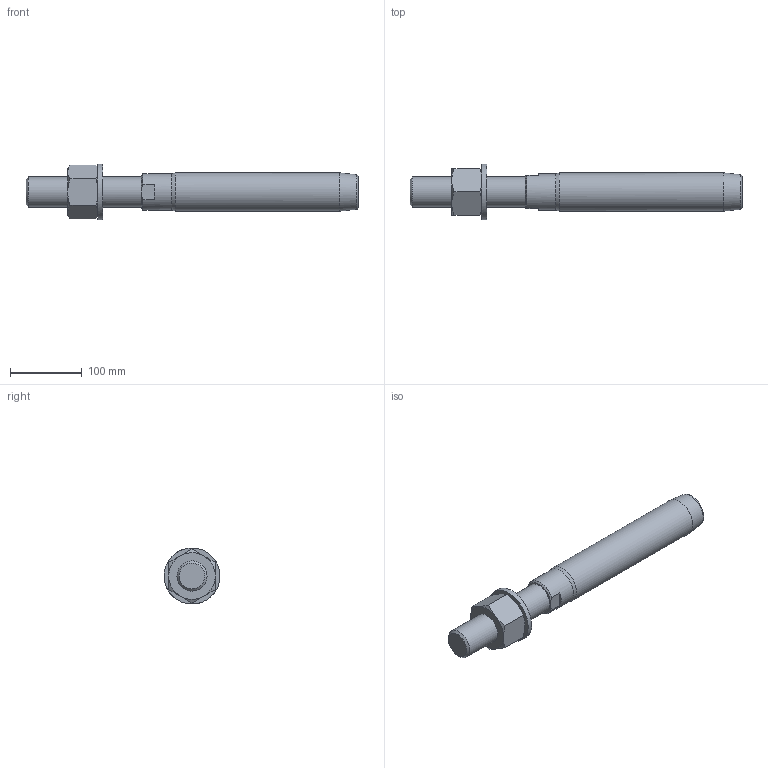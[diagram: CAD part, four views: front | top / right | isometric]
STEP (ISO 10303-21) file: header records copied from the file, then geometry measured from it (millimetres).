
FILE_DESCRIPTION(/* description */ (''),/* implementation_level */ '2;1');
FILE_NAME(/* name */ 'FLT 28_42CrMo4',/* time_stamp */ '2023-05-23T15:57:53+02:00',/* author */ (''),/* organization */ (''),/* preprocessor_version */ 'ST-DEVELOPER v16.5',/* originating_system */ 'Rhino 7.22',/* authorisation */ '');
FILE_SCHEMA (('CONFIG_CONTROL_DESIGN'));
Length unit declared in the file: millimetre
Products named in the file (1): Document
Bounding box: 463 x 78 x 77.93 mm (x, y, z)
Volume: 1008404.8 mm3; surface area: 102988.2 mm2
Topology: 3 solids, 3 shells, 43 faces, 103 edges, 67 vertices
Faces by surface type: bspline 20, plane 17, cylinder 6
Full cylindrical faces by diameter (mm): 38.752 x1, 42 x1, 43 x1, 50.8 x1, 53.4 x1, 78 x1
Entity records: 1586 total; most frequent: CARTESIAN_POINT 881, ORIENTED_EDGE 206, EDGE_CURVE 103, VERTEX_POINT 67, EDGE_LOOP 48, ADVANCED_FACE 43, FACE_OUTER_BOUND 43, DIRECTION 27
